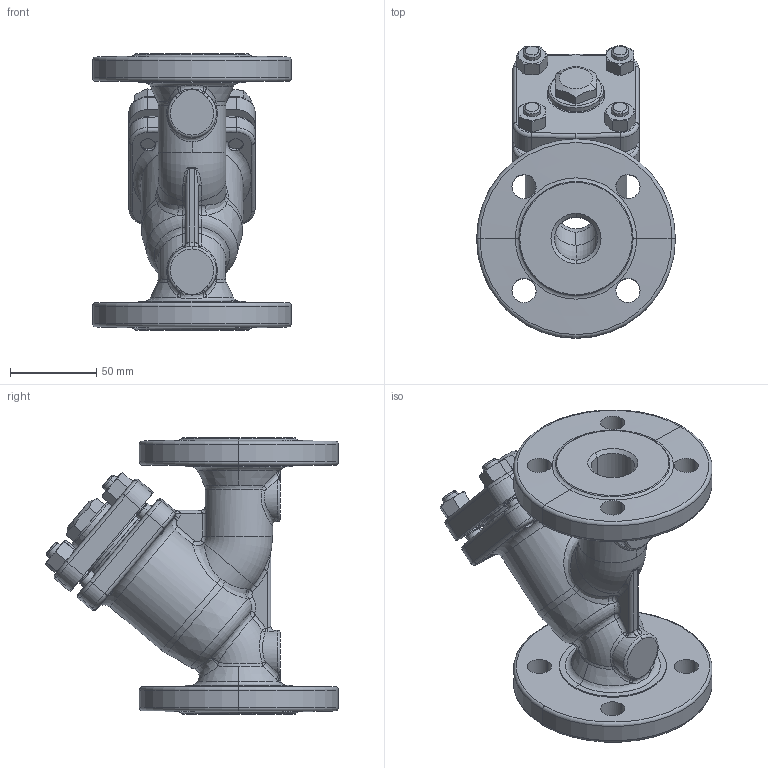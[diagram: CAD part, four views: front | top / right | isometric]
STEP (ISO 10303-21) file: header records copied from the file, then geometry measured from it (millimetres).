
FILE_DESCRIPTION (( 'STEP AP203' ), '1' );
FILE_NAME ('821_DN25 PN40.STEP', '2010-01-13T06:43:06', ( 'wtarnaws' ), ( '' ), 'SwSTEP 2.0', 'SolidWorks 2010', '' );
FILE_SCHEMA (( 'CONFIG_CONTROL_DESIGN' ));
Length unit declared in the file: millimetre
Products named in the file (6): 821_DN25 PN40; Kad³ub25 - z; Pokrywa 25; KOREK 3-4_Default; PN-EB ISO 4032_Nakrêtka szeœciok¹tna M10; M10 x 30_PreviewCfg
Assembly tree (11 placements, depth 2):
  821_DN25 PN40
    PN-EB ISO 4032_Nakrêtka szeœciok¹tna M10  x4
    M10 x 30_PreviewCfg  x4
    Pokrywa 25
    Kad³ub25 - z
    KOREK 3-4_Default
Bounding box: 115 x 169.19 x 160 mm (x, y, z)
Volume: 591755.8 mm3; surface area: 135942.5 mm2
Topology: 11 solids, 11 shells, 604 faces, 1357 edges, 780 vertices
Faces by surface type: cylinder 165, cone 152, torus 98, bspline 92, plane 91, sphere 6
Entity records: 37244 total; most frequent: CARTESIAN_POINT 27060, ORIENTED_EDGE 2006, DIRECTION 1927, EDGE_CURVE 1003, AXIS2_PLACEMENT_3D 845, VERTEX_POINT 582, CIRCLE 493, EDGE_LOOP 469
